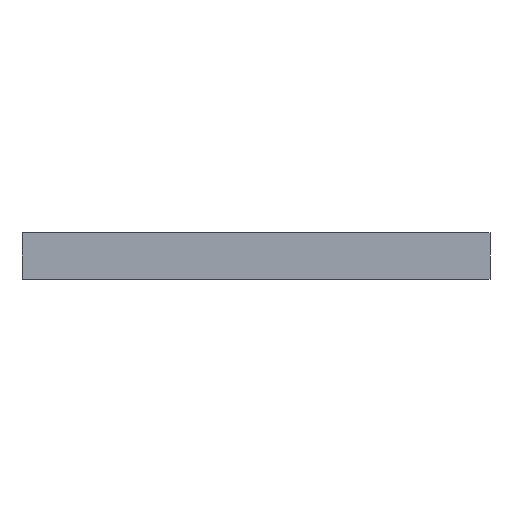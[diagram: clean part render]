
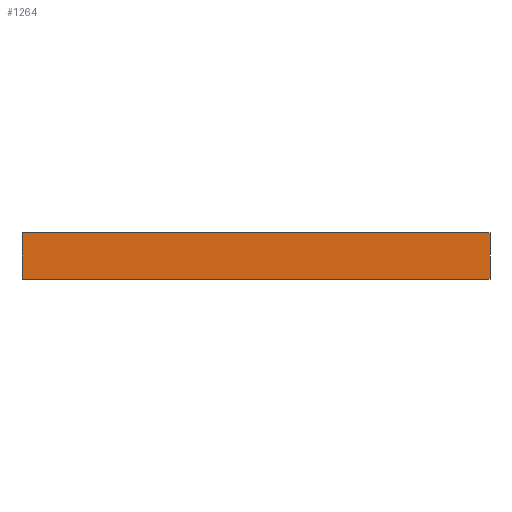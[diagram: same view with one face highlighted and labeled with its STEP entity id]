
A CAD part, front view. The second image highlights one B-rep face of the part: STEP entity #1264.
In plain terms, the highlighted planar face has unit normal (0, -1, 0).
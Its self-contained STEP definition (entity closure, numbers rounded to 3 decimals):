
#22 = VERTEX_POINT('',#23);
#23 = CARTESIAN_POINT('',(-0.8,20.8,10.4));
#32 = PLANE('',#33);
#33 = AXIS2_PLACEMENT_3D('',#34,#35,#36);
#34 = CARTESIAN_POINT('',(-0.8,20.8,9.2));
#35 = DIRECTION('',(1.,0.,0.));
#36 = DIRECTION('',(0.,0.,1.));
#44 = PLANE('',#45);
#45 = AXIS2_PLACEMENT_3D('',#46,#47,#48);
#46 = CARTESIAN_POINT('',(-0.8,20.8,10.4));
#47 = DIRECTION('',(0.,0.,1.));
#48 = DIRECTION('',(1.,0.,0.));
#56 = EDGE_CURVE('',#57,#22,#59,.T.);
#57 = VERTEX_POINT('',#58);
#58 = CARTESIAN_POINT('',(-0.8,20.8,9.2));
#59 = SURFACE_CURVE('',#60,(#64,#71),.PCURVE_S1.);
#60 = LINE('',#61,#62);
#61 = CARTESIAN_POINT('',(-0.8,20.8,9.2));
#62 = VECTOR('',#63,1.);
#63 = DIRECTION('',(0.,0.,1.));
#64 = PCURVE('',#32,#65);
#65 = DEFINITIONAL_REPRESENTATION('',(#66),#70);
#66 = LINE('',#67,#68);
#67 = CARTESIAN_POINT('',(0.,0.));
#68 = VECTOR('',#69,1.);
#69 = DIRECTION('',(1.,0.));
#70 = ( GEOMETRIC_REPRESENTATION_CONTEXT(2) 
PARAMETRIC_REPRESENTATION_CONTEXT() REPRESENTATION_CONTEXT('2D SPACE',''
  ) );
#71 = PCURVE('',#72,#77);
#72 = PLANE('',#73);
#73 = AXIS2_PLACEMENT_3D('',#74,#75,#76);
#74 = CARTESIAN_POINT('',(-0.8,20.8,9.2));
#75 = DIRECTION('',(0.,1.,0.));
#76 = DIRECTION('',(0.,0.,1.));
#77 = DEFINITIONAL_REPRESENTATION('',(#78),#82);
#78 = LINE('',#79,#80);
#79 = CARTESIAN_POINT('',(0.,0.));
#80 = VECTOR('',#81,1.);
#81 = DIRECTION('',(1.,0.));
#82 = ( GEOMETRIC_REPRESENTATION_CONTEXT(2) 
PARAMETRIC_REPRESENTATION_CONTEXT() REPRESENTATION_CONTEXT('2D SPACE',''
  ) );
#100 = PLANE('',#101);
#101 = AXIS2_PLACEMENT_3D('',#102,#103,#104);
#102 = CARTESIAN_POINT('',(-0.8,20.8,9.2));
#103 = DIRECTION('',(0.,0.,1.));
#104 = DIRECTION('',(1.,0.,0.));
#215 = EDGE_CURVE('',#22,#216,#218,.T.);
#216 = VERTEX_POINT('',#217);
#217 = CARTESIAN_POINT('',(11.4,20.8,10.4));
#218 = SURFACE_CURVE('',#219,(#223,#230),.PCURVE_S1.);
#219 = LINE('',#220,#221);
#220 = CARTESIAN_POINT('',(-0.8,20.8,10.4));
#221 = VECTOR('',#222,1.);
#222 = DIRECTION('',(1.,0.,0.));
#223 = PCURVE('',#44,#224);
#224 = DEFINITIONAL_REPRESENTATION('',(#225),#229);
#225 = LINE('',#226,#227);
#226 = CARTESIAN_POINT('',(0.,0.));
#227 = VECTOR('',#228,1.);
#228 = DIRECTION('',(1.,0.));
#229 = ( GEOMETRIC_REPRESENTATION_CONTEXT(2) 
PARAMETRIC_REPRESENTATION_CONTEXT() REPRESENTATION_CONTEXT('2D SPACE',''
  ) );
#230 = PCURVE('',#72,#231);
#231 = DEFINITIONAL_REPRESENTATION('',(#232),#236);
#232 = LINE('',#233,#234);
#233 = CARTESIAN_POINT('',(1.2,0.));
#234 = VECTOR('',#235,1.);
#235 = DIRECTION('',(0.,1.));
#236 = ( GEOMETRIC_REPRESENTATION_CONTEXT(2) 
PARAMETRIC_REPRESENTATION_CONTEXT() REPRESENTATION_CONTEXT('2D SPACE',''
  ) );
#254 = PLANE('',#255);
#255 = AXIS2_PLACEMENT_3D('',#256,#257,#258);
#256 = CARTESIAN_POINT('',(11.4,20.8,9.2));
#257 = DIRECTION('',(1.,0.,0.));
#258 = DIRECTION('',(0.,0.,1.));
#833 = EDGE_CURVE('',#57,#834,#836,.T.);
#834 = VERTEX_POINT('',#835);
#835 = CARTESIAN_POINT('',(11.4,20.8,9.2));
#836 = SURFACE_CURVE('',#837,(#841,#848),.PCURVE_S1.);
#837 = LINE('',#838,#839);
#838 = CARTESIAN_POINT('',(-0.8,20.8,9.2));
#839 = VECTOR('',#840,1.);
#840 = DIRECTION('',(1.,0.,0.));
#841 = PCURVE('',#100,#842);
#842 = DEFINITIONAL_REPRESENTATION('',(#843),#847);
#843 = LINE('',#844,#845);
#844 = CARTESIAN_POINT('',(0.,0.));
#845 = VECTOR('',#846,1.);
#846 = DIRECTION('',(1.,0.));
#847 = ( GEOMETRIC_REPRESENTATION_CONTEXT(2) 
PARAMETRIC_REPRESENTATION_CONTEXT() REPRESENTATION_CONTEXT('2D SPACE',''
  ) );
#848 = PCURVE('',#72,#849);
#849 = DEFINITIONAL_REPRESENTATION('',(#850),#854);
#850 = LINE('',#851,#852);
#851 = CARTESIAN_POINT('',(0.,0.));
#852 = VECTOR('',#853,1.);
#853 = DIRECTION('',(0.,1.));
#854 = ( GEOMETRIC_REPRESENTATION_CONTEXT(2) 
PARAMETRIC_REPRESENTATION_CONTEXT() REPRESENTATION_CONTEXT('2D SPACE',''
  ) );
#1264 = ADVANCED_FACE('',(#1265),#72,.F.);
#1265 = FACE_BOUND('',#1266,.F.);
#1266 = EDGE_LOOP('',(#1267,#1268,#1269,#1270));
#1267 = ORIENTED_EDGE('',*,*,#833,.F.);
#1268 = ORIENTED_EDGE('',*,*,#56,.T.);
#1269 = ORIENTED_EDGE('',*,*,#215,.T.);
#1270 = ORIENTED_EDGE('',*,*,#1271,.F.);
#1271 = EDGE_CURVE('',#834,#216,#1272,.T.);
#1272 = SURFACE_CURVE('',#1273,(#1277,#1284),.PCURVE_S1.);
#1273 = LINE('',#1274,#1275);
#1274 = CARTESIAN_POINT('',(11.4,20.8,9.2));
#1275 = VECTOR('',#1276,1.);
#1276 = DIRECTION('',(0.,0.,1.));
#1277 = PCURVE('',#72,#1278);
#1278 = DEFINITIONAL_REPRESENTATION('',(#1279),#1283);
#1279 = LINE('',#1280,#1281);
#1280 = CARTESIAN_POINT('',(0.,12.2));
#1281 = VECTOR('',#1282,1.);
#1282 = DIRECTION('',(1.,0.));
#1283 = ( GEOMETRIC_REPRESENTATION_CONTEXT(2) 
PARAMETRIC_REPRESENTATION_CONTEXT() REPRESENTATION_CONTEXT('2D SPACE',''
  ) );
#1284 = PCURVE('',#254,#1285);
#1285 = DEFINITIONAL_REPRESENTATION('',(#1286),#1290);
#1286 = LINE('',#1287,#1288);
#1287 = CARTESIAN_POINT('',(0.,0.));
#1288 = VECTOR('',#1289,1.);
#1289 = DIRECTION('',(1.,0.));
#1290 = ( GEOMETRIC_REPRESENTATION_CONTEXT(2) 
PARAMETRIC_REPRESENTATION_CONTEXT() REPRESENTATION_CONTEXT('2D SPACE',''
  ) );
